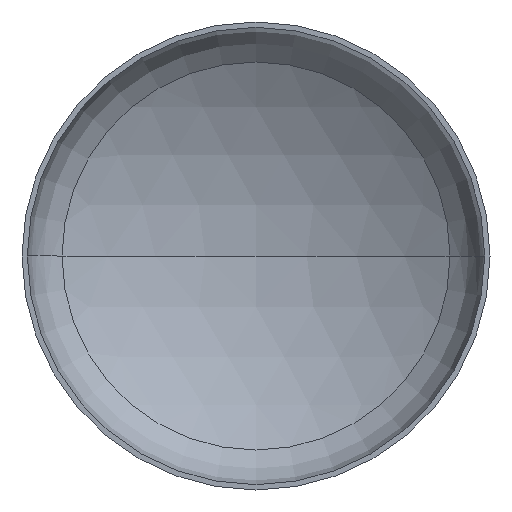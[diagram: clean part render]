
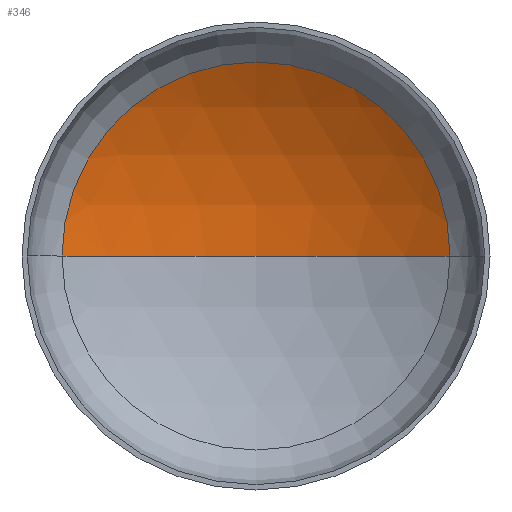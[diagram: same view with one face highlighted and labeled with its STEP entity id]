
A CAD part, front view. The second image highlights one B-rep face of the part: STEP entity #346.
In plain terms, the highlighted spherical face has radius 2240 mm.
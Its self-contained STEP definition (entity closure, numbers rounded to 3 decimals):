
#5 = DIRECTION ( 'NONE',  ( 0., -1., 0. ) ) ;
#7 = VERTEX_POINT ( 'NONE', #298 ) ;
#9 = AXIS2_PLACEMENT_3D ( 'NONE', #410, #336, #232 ) ;
#10 = AXIS2_PLACEMENT_3D ( 'NONE', #176, #333, #267 ) ;
#12 = EDGE_LOOP ( 'NONE', ( #42, #29, #338 ) ) ;
#29 = ORIENTED_EDGE ( 'NONE', *, *, #150, .T. ) ;
#37 = VERTEX_POINT ( 'NONE', #299 ) ;
#42 = ORIENTED_EDGE ( 'NONE', *, *, #362, .F. ) ;
#61 = AXIS2_PLACEMENT_3D ( 'NONE', #394, #200, #215 ) ;
#71 = AXIS2_PLACEMENT_3D ( 'NONE', #155, #5, #372 ) ;
#125 = VERTEX_POINT ( 'NONE', #348 ) ;
#147 = FACE_OUTER_BOUND ( 'NONE', #12, .T. ) ;
#149 = EDGE_CURVE ( 'NONE', #7, #37, #244, .T. ) ;
#150 = EDGE_CURVE ( 'NONE', #125, #7, #179, .T. ) ;
#155 = CARTESIAN_POINT ( 'NONE',  ( 0., 467.753, 0. ) ) ;
#176 = CARTESIAN_POINT ( 'NONE',  ( 0., -1447.984, 0. ) ) ;
#179 = CIRCLE ( 'NONE', #61, 2240. ) ;
#200 = DIRECTION ( 'NONE',  ( 0., 0., -1. ) ) ;
#215 = DIRECTION ( 'NONE',  ( -1., 0., 0. ) ) ;
#232 = DIRECTION ( 'NONE',  ( 1., 0., 0. ) ) ;
#244 = CIRCLE ( 'NONE', #71, 1160.84 ) ;
#267 = DIRECTION ( 'NONE',  ( -1., 0., 0. ) ) ;
#280 = SPHERICAL_SURFACE ( 'NONE', #10, 2240. ) ;
#298 = CARTESIAN_POINT ( 'NONE',  ( 1160.84, 467.753, 0. ) ) ;
#299 = CARTESIAN_POINT ( 'NONE',  ( -1160.84, 467.753, 0. ) ) ;
#333 = DIRECTION ( 'NONE',  ( 0., 0., -1. ) ) ;
#336 = DIRECTION ( 'NONE',  ( 0., 0., 1. ) ) ;
#338 = ORIENTED_EDGE ( 'NONE', *, *, #149, .T. ) ;
#346 = ADVANCED_FACE ( 'NONE', ( #147 ), #280, .F. ) ;
#348 = CARTESIAN_POINT ( 'NONE',  ( 0., 792.016, 0. ) ) ;
#362 = EDGE_CURVE ( 'NONE', #125, #37, #396, .T. ) ;
#372 = DIRECTION ( 'NONE',  ( 1., 0., 0. ) ) ;
#394 = CARTESIAN_POINT ( 'NONE',  ( 0., -1447.984, 0. ) ) ;
#396 = CIRCLE ( 'NONE', #9, 2240. ) ;
#410 = CARTESIAN_POINT ( 'NONE',  ( 0., -1447.984, 0. ) ) ;
